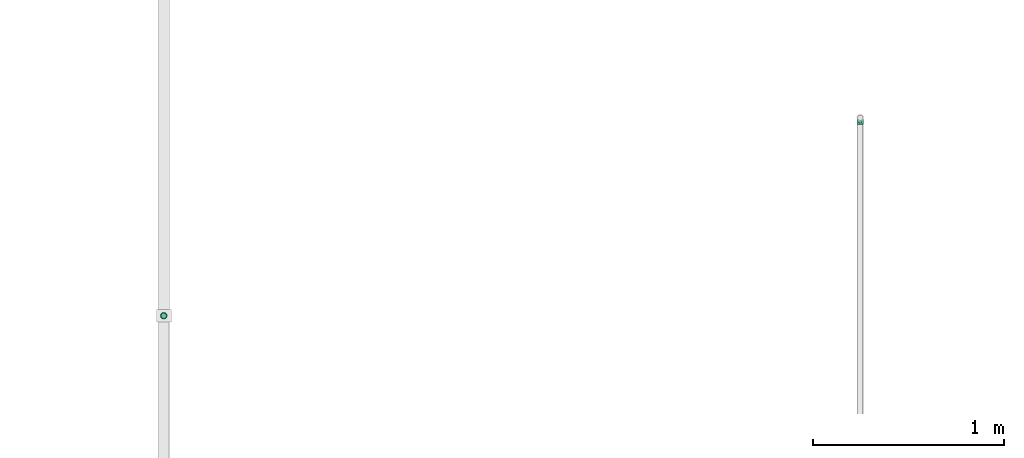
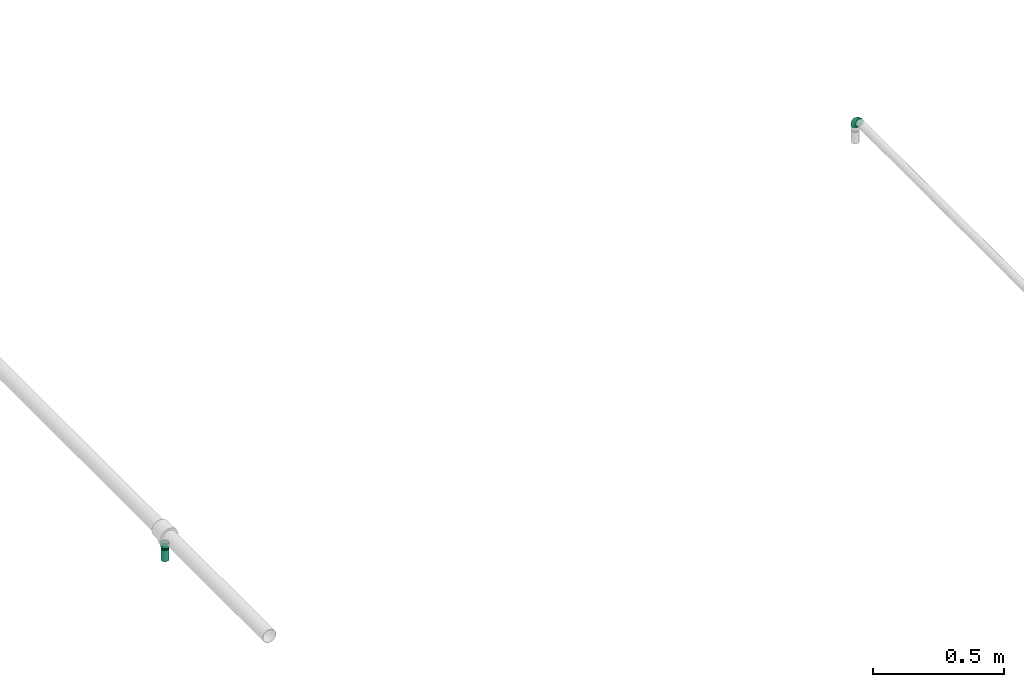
# One storey, part 4 of 17: 2 flow fittings, 1 flow segment, 1 flow terminal.
"""IFC2X3 building model written with IfcOpenShell, lengths in millimetres."""

from ifc_helpers import new_model, entity, si_unit, converted_unit, derived_unit, direction, frame, origin_with_axes, origin_2d_with_axis, place, context, subcontext, project, spatial, hollow_circle, extrude, open_shell, surface_model, source, transform, mapped, type_object, element, save


model = new_model("IFC2X3")

# Units and contexts
model_context = context("Model", 3, precision=0.01, world=frame((0.0, 4.29681676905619e-09, 0.0)), true_north=direction((4.01073788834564e-13, 1.0)))
plan_context = context("Plan", 3, precision=0.01, world=frame((0.0, 4.29681676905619e-09, 0.0)), true_north=direction((4.01073788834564e-13, 1.0)))
body_context = subcontext(model_context, "Body", "Model", "MODEL_VIEW")
ifc_project = project(units=[converted_unit("PLANEANGLEUNIT", "DEGREE", entity("IfcPositiveLengthMeasure", 0.0174532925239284), si_unit("PLANEANGLEUNIT", "RADIAN"), dimensions=[0, 0, 0, 0, 0, 0, 0]), si_unit("AREAUNIT", "SQUARE_METRE"), si_unit("LENGTHUNIT", "METRE", prefix="MILLI"), si_unit("MASSUNIT", "GRAM", prefix="KILO"), si_unit("POWERUNIT", "WATT"), si_unit("PRESSUREUNIT", "PASCAL"), si_unit("FORCEUNIT", "NEWTON", prefix="KILO"), si_unit("ELECTRICVOLTAGEUNIT", "VOLT"), si_unit("ELECTRICCURRENTUNIT", "AMPERE"), si_unit("THERMODYNAMICTEMPERATUREUNIT", "DEGREE_CELSIUS"), si_unit("TIMEUNIT", "SECOND"), si_unit("VOLUMEUNIT", "CUBIC_METRE"), derived_unit("LINEARVELOCITYUNIT", [(si_unit("LENGTHUNIT", "METRE"), 1), (si_unit("TIMEUNIT", "SECOND"), -1)]), derived_unit("VOLUMETRICFLOWRATEUNIT", [(si_unit("VOLUMEUNIT", "CUBIC_METRE"), 1), (si_unit("TIMEUNIT", "SECOND"), -1)]), derived_unit("THERMALTRANSMITTANCEUNIT", [(si_unit("POWERUNIT", "WATT"), 1), (si_unit("THERMODYNAMICTEMPERATUREUNIT", "KELVIN"), -1), (si_unit("AREAUNIT", "SQUARE_METRE"), -1)]), derived_unit("SOUNDPRESSUREUNIT", [(si_unit("PRESSUREUNIT", "PASCAL"), 1)])], contexts=[model_context, plan_context])

# Site, building, storey
site_placement = place(None, frame((0.0, -4.29681676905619e-09, 0.0), z_axis=(0.0, 0.0, 1.0), x_axis=(1.0, 0.0, 0.0)))
site = spatial("IfcSite", under=ifc_project, at=site_placement, Name="ENGM", CompositionType="ELEMENT")
building_placement = place(site_placement, frame((0.0, 4.29681676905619e-09, 0.0), z_axis=(0.0, 0.0, 1.0), x_axis=(1.0, 0.0, 0.0)))
building = spatial("IfcBuilding", under=site, at=building_placement, Name="TH", CompositionType="ELEMENT")
storey_placement = place(building_placement, frame((0.0, 0.0, 205200.0), z_axis=(0.0, 0.0, 1.0), x_axis=(1.0, 0.0, 0.0)))
storey = spatial("IfcBuildingStorey", under=building, at=storey_placement, Name="Nivå D + 1,2 m", CompositionType="ELEMENT", Elevation=205200.0)

# Flow fittings
pipe_fitting_type_1 = type_object("IfcPipeFittingType", Name="magi_pipe_fe_elbow_short_001", PredefinedType="BEND")
shared_shape_1 = source(origin_with_axes(), body_context, "Body", "SurfaceModel", [
    surface_model("IfcShellBasedSurfaceModel", [(-33.8, 8.45, -14.63583), (-33.8, 4.37404, -16.32415), (-33.8, 11.9501, -11.9501), (-33.8, -11.9501, -11.9501), (-33.8, -14.63583, -8.45), (-33.8, -8.45, -14.63583), (-33.8, 0.0, -16.9), (-33.8, -4.37404, -16.32415), (-33.8, -4.37404, 16.32415), (-33.8, 0.0, 16.9), (-33.8, -8.45, 14.63583), (-33.8, 16.32415, -4.37404), (-33.8, 14.63583, -8.45), (-33.8, -16.32415, -4.37404), (-33.8, -16.9, 0.0), (-33.8, -16.32415, 4.37404), (-33.8, 11.9501, 11.9501), (-33.8, 14.63583, 8.45), (-33.8, 16.32415, 4.37404), (-33.8, 4.37404, 16.32415), (-33.8, 8.45, 14.63583), (-33.8, -14.63583, 8.45), (-33.8, -11.9501, 11.9501), (-33.8, 16.9, 0.0), (-11.9501, 33.8, -11.9501), (0.0, 33.8, -16.9), (-4.37404, 33.8, -16.32415), (-8.45, 33.8, -14.63583), (-14.63583, 33.8, -8.45), (-16.32415, 33.8, -4.37404), (14.63583, 33.8, -8.45), (8.45, 33.8, 14.63583), (16.32415, 33.8, -4.37404), (8.45, 33.8, -14.63583), (11.9501, 33.8, -11.9501), (4.37404, 33.8, -16.32415), (16.32415, 33.8, 4.37404), (16.9, 33.8, 0.0), (-11.9501, 33.8, 11.9501), (-16.32415, 33.8, 4.37404), (-14.63583, 33.8, 8.45), (-8.45, 33.8, 14.63583), (-4.37404, 33.8, 16.32415), (11.9501, 33.8, 11.9501), (14.63583, 33.8, 8.45), (0.0, 33.8, 16.9), (4.37404, 33.8, 16.32415), (-16.9, 33.8, 0.0), (-24.79389, -13.12945, 9.48721), (-22.19287, -9.75018, 12.59315), (-24.09897, -14.97035, 0.0), (-14.93934, -10.76256, 8.5297), (-22.46095, -14.75051, 5.27077), (14.75051, 22.46094, 5.27077), (11.9251, 13.23888, 4.33236), (13.04069, 14.39795, 0.0), (7.71387, 13.68847, 11.55891), (9.75018, 22.19287, 12.59315), (4.10169, 13.0571, 14.04018), (-24.84007, -6.39063, 15.2048), (-25.81779, -2.23879, 16.61097), (-23.66549, 2.59054, 16.87119), (-26.50418, 14.06512, 11.08152), (-24.21253, 17.66365, 7.72657), (-29.58514, 15.86957, 7.00283), (-6.17382, -7.5455, 0.0), (-13.23888, -11.9251, 4.33236), (-14.39795, -13.04069, 0.0), (-17.81434, 18.87373, 11.97104), (-6.30846, 29.15138, 15.82987), (-2.31622, 25.28002, 16.85849), (-29.23923, 10.23435, 13.77053), (-1.45439, -2.85688, 7.61475), (-0.28326, 0.34872, 10.09509), (-5.74484, -4.04709, 10.4122), (-4.41137, 11.31918, 16.59407), (-8.39727, 3.10034, 15.7812), (-1.72649, 9.1306, 15.53089), (-17.39909, 24.75344, 7.64977), (-26.19233, 20.0512, 0.0), (-28.14518, 17.29657, 4.25857), (-26.05147, 6.6281, 15.96447), (-5.87354, 16.61944, 16.86968), (-12.51807, 12.51807, 16.48937), (-10.06312, 7.38516, 16.81295), (-3.01882, 3.01882, 13.81718), (-13.0571, -4.10169, 14.04018), (-16.82553, -0.15166, 16.38038), (10.76256, 14.93934, 8.5297), (13.12945, 24.79389, 9.48721), (6.39063, 24.84007, 15.2048), (2.23879, 25.81779, 16.61097), (-13.68847, -7.71387, 11.55891), (14.97035, 24.09897, 0.0), (-7.30894, 22.89991, 16.09489), (-10.67958, 26.17414, 14.008), (-12.78295, 18.26924, 15.06066), (-13.88562, 22.45231, 12.93244), (-18.04944, 15.16501, 14.04434), (-23.11658, 20.08178, 4.02986), (-21.84989, 21.84989, 0.0), (-18.55817, 25.48277, 3.93065), (-13.95142, 26.94732, 11.03289), (-18.57098, 7.23906, 16.59756), (-16.58335, 4.14122, 16.89279), (-17.96666, 11.46709, 15.63151), (-9.84453, 17.54304, 16.18938), (0.15166, 16.82553, 16.38038), (-23.27207, 11.47201, 14.23154), (3.84842, 5.86994, 10.70473), (-8.0212, -7.54413, 7.93275), (1.00345, -2.19508, 4.57414), (5.13203, 3.01004, 5.90201), (5.24161, 1.7543, 2.53265), (8.70457, 7.04947, 3.99182), (-20.0512, 26.19233, 0.0), (8.4852, 8.76699, 7.09296), (-4.55488, -6.72064, 4.90681), (2.05031, -2.05031, 0.0), (7.5455, 6.17382, 0.0), (-26.75399, 2.1369, -16.845), (-14.61995, 24.73803, -11.27736), (-28.45274, -13.45335, -9.81895), (-26.00469, 6.63555, -15.96645), (-23.06726, 20.04573, -4.26202), (-13.80647, -4.26506, -14.17873), (-14.67501, -0.21081, -16.07388), (-6.7902, -0.2828, -13.8478), (-24.53586, 11.08096, -14.13417), (-26.72048, 14.00837, -11.05776), (10.0967, 24.44989, -12.75976), (5.83237, 21.40218, -15.03047), (6.66249, 28.54238, -15.38093), (-20.38182, 15.48705, -12.74596), (12.53268, 21.23441, -9.15363), (12.54494, 15.67504, -5.54878), (9.7522, 12.89279, -8.66343), (-15.65186, 19.64213, -13.01327), (-12.03528, 20.66498, -14.67665), (-15.61907, 15.61906, -14.83879), (-25.56551, -15.26206, 0.0), (-24.65452, -15.12934, -5.50955), (13.45335, 28.45274, -9.81895), (15.12934, 24.65452, -5.50955), (-7.35442, -8.31014, -5.65563), (-15.67504, -12.54494, -5.54878), (-24.44989, -10.0967, -12.75976), (0.16522, 0.41303, -9.71728), (-5.70658, -5.33066, -8.89288), (-5.13869, -2.37198, -11.53565), (-21.23441, -12.53268, -9.15363), (0.71146, 7.93863, -14.09382), (0.21081, 14.67501, -16.07388), (3.49291, 14.42772, -14.76381), (-24.89911, -2.13088, -16.591), (-28.54238, -6.66249, -15.38093), (-18.44386, -7.71663, -13.26957), (2.13088, 24.89911, -16.591), (-28.64342, 17.44413, -2.89318), (1.70017, -1.28722, -5.09504), (-16.57067, 26.81947, -7.36596), (-17.69055, 27.4263, -3.76405), (-12.89279, -9.7522, -8.66343), (-5.96611, 5.96611, -15.95814), (-20.53709, 20.09345, -8.28985), (-2.1369, 26.75399, -16.845), (-6.89872, 24.58781, -16.02578), (-10.60739, 26.53157, -13.98044), (-21.40218, -5.83237, -15.03047), (2.93192, 5.89627, -11.55917), (6.89393, 12.61842, -11.82233), (5.58056, 5.95325, -8.79455), (-3.99512, 18.61798, -16.89635), (8.31014, 7.35442, -5.65563), (-9.1383, 9.86148, -16.89041), (-9.99983, 16.02119, -16.39699), (-16.68576, 9.78031, -16.34199), (-27.01915, 16.61158, -7.12979), (15.26206, 25.56551, 0.0), (-18.61798, 3.99512, -16.89635), (-19.37495, 27.82495, 0.0), (-12.61842, -6.89393, -11.82233), (-18.84705, 19.14018, -10.96545)], [open_shell([[[0, 1, 2]], [[3, 4, 5]], [[6, 7, 5]], [[8, 9, 10]], [[1, 6, 2]], [[11, 12, 2]], [[4, 2, 6]], [[2, 13, 10]], [[5, 4, 6]], [[2, 4, 13]], [[14, 15, 13]], [[11, 2, 16]], [[11, 17, 18]], [[11, 16, 17]], [[19, 20, 16]], [[16, 2, 10]], [[19, 16, 10]], [[21, 22, 15]], [[22, 13, 15]], [[22, 10, 13]], [[10, 9, 19]], [[11, 18, 23]], [[24, 25, 26]], [[24, 26, 27]], [[24, 28, 29]], [[25, 24, 30]], [[31, 32, 24]], [[33, 30, 34]], [[33, 35, 25]], [[25, 30, 33]], [[32, 30, 24]], [[32, 36, 37]], [[38, 24, 29]], [[39, 40, 29]], [[40, 38, 29]], [[38, 41, 42]], [[38, 31, 24]], [[31, 38, 42]], [[36, 43, 44]], [[36, 32, 43]], [[31, 45, 46]], [[32, 31, 43]], [[42, 45, 31]], [[39, 29, 47]], [[22, 48, 49]], [[15, 14, 50]], [[51, 48, 52]], [[53, 54, 55]], [[48, 22, 21]], [[15, 52, 21]], [[56, 57, 58]], [[49, 10, 22]], [[49, 59, 10]], [[9, 60, 61]], [[62, 63, 64]], [[65, 66, 67]], [[57, 43, 31]], [[62, 68, 63]], [[42, 69, 70]], [[20, 71, 16]], [[8, 60, 9]], [[72, 73, 74]], [[75, 76, 77]], [[16, 62, 17]], [[40, 39, 78]], [[79, 23, 80]], [[64, 18, 17]], [[9, 61, 19]], [[19, 81, 20]], [[82, 83, 84]], [[74, 85, 86]], [[59, 86, 87]], [[88, 89, 57]], [[90, 31, 46]], [[44, 53, 36]], [[46, 45, 91]], [[54, 53, 88]], [[44, 89, 53]], [[92, 86, 49]], [[89, 44, 43]], [[10, 59, 8]], [[53, 55, 93]], [[93, 36, 53]], [[66, 52, 67]], [[94, 82, 70]], [[95, 96, 94]], [[97, 98, 96]], [[79, 99, 100]], [[41, 38, 95]], [[101, 100, 99]], [[68, 78, 63]], [[42, 41, 69]], [[23, 18, 80]], [[95, 94, 69]], [[78, 101, 99]], [[38, 102, 95]], [[70, 45, 42]], [[97, 95, 102]], [[15, 50, 52]], [[90, 57, 31]], [[57, 90, 58]], [[81, 19, 61]], [[103, 104, 84]], [[105, 81, 103]], [[38, 40, 102]], [[106, 96, 83]], [[94, 106, 82]], [[91, 70, 107]], [[71, 62, 16]], [[62, 108, 98]], [[86, 59, 49]], [[67, 52, 50]], [[60, 59, 87]], [[92, 49, 51]], [[86, 85, 76]], [[91, 90, 46]], [[37, 36, 93]], [[107, 77, 58]], [[107, 58, 90]], [[58, 85, 109]], [[110, 74, 92]], [[72, 74, 110]], [[66, 51, 52]], [[72, 111, 112]], [[113, 114, 112]], [[56, 88, 57]], [[52, 48, 21]], [[49, 48, 51]], [[57, 89, 43]], [[53, 89, 88]], [[103, 81, 61]], [[71, 81, 108]], [[18, 64, 80]], [[63, 78, 99]], [[47, 115, 101]], [[101, 115, 100]], [[40, 78, 102]], [[68, 102, 78]], [[97, 96, 95]], [[105, 98, 108]], [[103, 84, 83]], [[107, 70, 82]], [[76, 84, 87]], [[82, 84, 75]], [[70, 91, 45]], [[90, 91, 107]], [[59, 60, 8]], [[61, 60, 87]], [[73, 85, 74]], [[109, 112, 116]], [[103, 61, 104]], [[105, 103, 83]], [[96, 105, 83]], [[81, 105, 108]], [[96, 98, 105]], [[62, 98, 68]], [[61, 87, 104]], [[87, 84, 104]], [[86, 76, 87]], [[77, 76, 85]], [[58, 77, 85]], [[75, 77, 107]], [[82, 75, 107]], [[76, 75, 84]], [[81, 71, 20]], [[62, 71, 108]], [[95, 69, 41]], [[70, 69, 94]], [[62, 64, 17]], [[80, 63, 99]], [[63, 80, 64]], [[80, 99, 79]], [[66, 65, 117]], [[110, 66, 117]], [[112, 114, 116]], [[118, 117, 65]], [[110, 92, 51]], [[112, 111, 113]], [[119, 55, 54]], [[74, 86, 92]], [[58, 109, 56]], [[116, 56, 109]], [[66, 110, 51]], [[72, 110, 117]], [[111, 72, 117]], [[73, 112, 109]], [[117, 118, 111]], [[113, 111, 118]], [[118, 119, 113]], [[114, 119, 54]], [[119, 114, 113]], [[116, 54, 88]], [[54, 116, 114]], [[116, 88, 56]], [[112, 73, 72]], [[85, 73, 109]], [[78, 39, 101]], [[47, 101, 39]], [[102, 68, 97]], [[97, 68, 98]], [[82, 106, 83]], [[94, 96, 106]], [[1, 120, 6]], [[28, 24, 121]], [[3, 122, 4]], [[0, 123, 1]], [[100, 124, 79]], [[125, 126, 127]], [[128, 2, 129]], [[130, 131, 132]], [[128, 129, 133]], [[134, 135, 136]], [[137, 138, 139]], [[128, 0, 2]], [[67, 140, 141]], [[134, 142, 143]], [[141, 13, 4]], [[144, 65, 145]], [[146, 3, 5]], [[147, 148, 149]], [[145, 141, 150]], [[151, 152, 153]], [[154, 7, 6]], [[5, 155, 146]], [[150, 146, 156]], [[155, 5, 7]], [[143, 135, 134]], [[35, 157, 25]], [[23, 79, 158]], [[148, 159, 144]], [[160, 161, 29]], [[145, 162, 144]], [[163, 152, 151]], [[29, 28, 160]], [[121, 164, 160]], [[33, 34, 130]], [[25, 165, 26]], [[26, 165, 166]], [[142, 34, 30]], [[24, 27, 167]], [[124, 161, 164]], [[157, 35, 132]], [[155, 154, 168]], [[123, 0, 128]], [[169, 170, 171]], [[172, 157, 152]], [[26, 166, 27]], [[132, 35, 33]], [[142, 130, 34]], [[168, 154, 126]], [[136, 135, 173]], [[133, 137, 139]], [[2, 12, 129]], [[170, 131, 130]], [[30, 32, 143]], [[172, 174, 175]], [[176, 123, 128]], [[158, 177, 11]], [[135, 55, 119]], [[167, 27, 166]], [[175, 166, 172]], [[137, 167, 138]], [[122, 141, 4]], [[140, 14, 13]], [[32, 37, 178]], [[170, 130, 134]], [[152, 157, 131]], [[165, 157, 172]], [[153, 170, 151]], [[152, 163, 174]], [[168, 125, 156]], [[122, 146, 150]], [[120, 154, 6]], [[179, 174, 126]], [[179, 126, 154]], [[126, 163, 127]], [[162, 145, 150]], [[140, 13, 141]], [[32, 178, 143]], [[55, 143, 178]], [[177, 129, 12]], [[128, 133, 139]], [[176, 128, 139]], [[120, 123, 179]], [[121, 160, 28]], [[161, 100, 180]], [[166, 175, 138]], [[121, 24, 167]], [[161, 47, 29]], [[79, 124, 158]], [[124, 164, 177]], [[161, 124, 100]], [[136, 171, 170]], [[127, 163, 151]], [[147, 171, 159]], [[148, 144, 162]], [[127, 151, 169]], [[127, 181, 125]], [[129, 177, 164]], [[12, 11, 177]], [[159, 65, 144]], [[67, 141, 145]], [[143, 55, 135]], [[135, 119, 173]], [[123, 120, 1]], [[154, 120, 179]], [[157, 165, 25]], [[166, 165, 172]], [[172, 152, 174]], [[176, 139, 175]], [[126, 174, 163]], [[176, 174, 179]], [[174, 176, 175]], [[123, 176, 179]], [[150, 181, 162]], [[127, 149, 181]], [[181, 148, 162]], [[159, 148, 147]], [[171, 136, 173]], [[170, 134, 136]], [[159, 171, 173]], [[171, 147, 169]], [[169, 147, 149]], [[151, 170, 169]], [[164, 182, 129]], [[182, 121, 137]], [[181, 149, 148]], [[169, 149, 127]], [[182, 137, 133]], [[167, 137, 121]], [[166, 138, 167]], [[175, 139, 138]], [[129, 182, 133]], [[121, 182, 164]], [[161, 160, 164]], [[47, 161, 180]], [[177, 158, 124]], [[23, 158, 11]], [[130, 132, 33]], [[157, 132, 131]], [[143, 142, 30]], [[130, 142, 134]], [[154, 155, 7]], [[146, 155, 168]], [[146, 122, 3]], [[141, 122, 150]], [[152, 131, 153]], [[159, 119, 118]], [[67, 145, 65]], [[170, 153, 131]], [[119, 159, 173]], [[159, 118, 65]], [[156, 125, 181]], [[126, 125, 168]], [[150, 156, 181]], [[168, 156, 146]]])]),
])
flow_fitting_1_placement = place(storey_placement, frame((899432.08103, 477870.89813, 4446.54603), z_axis=(-1.0, 0.0, 0.0), x_axis=(0.0, 1.0, 0.0)))
element("IfcFlowFitting", 1, at=flow_fitting_1_placement, inside=storey, type_object=pipe_fitting_type_1, Name="magi_pipe_fe_elbow_short_001", context=body_context, shape_type="MappedRepresentation", body=[
    mapped(shared_shape_1, transform((0.0, 0.0, 0.0), scale=1.0)),
])
pipe_fitting_type_2 = type_object("IfcPipeFittingType", Name="magi_pipe_fe_reducer_centric_short_NOR", PredefinedType="TRANSITION")
shared_shape_2 = source(origin_with_axes(), body_context, "Body", "SurfaceModel", [
    surface_model("IfcShellBasedSurfaceModel", [(14.4, 4.37404, -16.32415), (14.4, 8.45, -14.63583), (14.4, 11.9501, -11.9501), (14.4, -8.45, -14.63583), (14.4, 16.32415, -4.37404), (14.4, 16.32415, 4.37404), (14.4, 14.63583, -8.45), (14.4, 0.0, -16.9), (14.4, -4.37404, -16.32415), (14.4, -11.9501, -11.9501), (14.4, -16.32415, -4.37404), (14.4, -14.63583, -8.45), (14.4, -16.32415, 4.37404), (14.4, 16.9, 0.0), (14.4, 14.63583, 8.45), (14.4, 11.9501, 11.9501), (14.4, 4.37404, 16.32415), (14.4, 8.45, 14.63583), (14.4, 0.0, 16.9), (14.4, -14.63583, 8.45), (14.4, -16.9, 0.0), (14.4, -8.45, 14.63583), (14.4, -11.9501, 11.9501), (14.4, -4.37404, 16.32415), (12.4, 4.37404, 16.32415), (12.4, -14.63583, 8.45), (12.4, 0.0, 16.9), (12.4, 16.32415, 4.37404), (12.4, 8.45, 14.63583), (12.4, 11.9501, 11.9501), (12.4, 14.63583, 8.45), (12.4, -8.45, 14.63583), (12.4, -11.9501, 11.9501), (12.4, -4.37404, 16.32415), (12.4, -16.32415, 4.37404), (12.4, -16.32415, -4.37404), (12.4, -16.9, 0.0), (12.4, -8.45, -14.63583), (12.4, 16.32415, -4.37404), (12.4, 11.9501, -11.9501), (12.4, 14.63583, -8.45), (12.4, 8.45, -14.63583), (12.4, 4.37404, -16.32415), (12.4, 0.0, -16.9), (12.4, -11.9501, -11.9501), (12.4, -14.63583, -8.45), (12.4, -4.37404, -16.32415), (12.4, 16.9, 0.0), (-2.0, 10.33541, 2.76936), (-2.0, 0.0, 10.7), (-2.0, 2.76936, 10.33541), (-2.0, 7.56604, 7.56604), (-2.0, 5.35, 9.26647), (-2.0, 9.26647, 5.35), (-2.0, -9.26647, 5.35), (-2.0, -2.76936, 10.33541), (-2.0, -7.56604, 7.56604), (-2.0, -5.35, 9.26647), (-2.0, -10.33541, 2.76936), (-2.0, -10.33541, -2.76936), (-2.0, -10.7, 0.0), (-2.0, 10.33541, -2.76936), (-2.0, 7.56604, -7.56604), (-2.0, 9.26647, -5.35), (-2.0, 5.35, -9.26647), (-2.0, -5.35, -9.26647), (-2.0, 2.76936, -10.33541), (-2.0, -7.56604, -7.56604), (-2.0, -9.26647, -5.35), (-2.0, 0.0, -10.7), (-2.0, -2.76936, -10.33541), (-2.0, 10.7, 0.0), (0.0, 5.35, -9.26647), (0.0, 0.0, -10.7), (0.0, 2.76936, -10.33541), (0.0, 10.33541, -2.76936), (0.0, 7.56604, -7.56604), (0.0, -5.35, -9.26647), (0.0, 9.26647, -5.35), (0.0, -9.26647, 5.35), (0.0, -2.76936, -10.33541), (0.0, -7.56604, -7.56604), (0.0, -10.33541, -2.76936), (0.0, -9.26647, -5.35), (0.0, 10.33541, 2.76936), (0.0, 10.7, 0.0), (0.0, 9.26647, 5.35), (0.0, 7.56604, 7.56604), (0.0, 2.76936, 10.33541), (0.0, 0.0, 10.7), (0.0, 5.35, 9.26647), (0.0, -10.33541, 2.76936), (0.0, -10.7, 0.0), (0.0, -7.56604, 7.56604), (0.0, -2.76936, 10.33541), (0.0, -5.35, 9.26647), (0.0, -9.3625, -2.31662), (12.4, -14.42505, -5.97505), (12.4, -15.66253, -2.98753), (0.0, 6.6875, -6.94985), (12.4, 8.96258, -13.18758), (0.0, -6.6875, -6.94985), (12.4, -8.96258, -13.18758), (0.0, 9.3625, -2.31662), (12.4, 15.66253, -2.98753), (12.4, 14.42505, -5.97505), (12.4, -5.97505, -14.42505), (12.4, 5.97505, -14.42505), (0.0, 2.675, -9.26647), (12.4, 13.18758, -8.96258), (0.0, -2.675, -9.26647), (12.4, -13.18758, -8.96258), (0.0, -8.025, -4.63324), (12.4, 2.98753, -15.66253), (0.0, 0.0, -9.26647), (12.4, -2.98753, -15.66253), (0.0, 8.025, -4.63324), (0.0, 9.3625, 2.31662), (12.4, 14.42505, 5.97505), (12.4, 15.66253, 2.98753), (0.0, -6.6875, 6.94985), (12.4, -8.96258, 13.18758), (0.0, 6.6875, 6.94985), (12.4, 8.96258, 13.18758), (0.0, -9.3625, 2.31662), (12.4, -15.66253, 2.98753), (12.4, -14.42505, 5.97505), (12.4, 5.97505, 14.42505), (12.4, -5.97505, 14.42505), (0.0, -2.675, 9.26647), (12.4, -13.18758, 8.96258), (0.0, 2.675, 9.26647), (12.4, 13.18758, 8.96258), (0.0, 8.025, 4.63324), (12.4, -2.98753, 15.66253), (0.0, 0.0, 9.26647), (12.4, 2.98753, 15.66253), (0.0, -8.025, 4.63324)], [open_shell([[[0, 1, 2]], [[3, 0, 2]], [[2, 4, 5]], [[4, 2, 6]], [[2, 5, 3]], [[7, 3, 8]], [[7, 0, 3]], [[9, 10, 11]], [[10, 9, 3]], [[3, 12, 10]], [[5, 4, 13]], [[5, 14, 15]], [[5, 15, 16]], [[16, 12, 3]], [[16, 15, 17]], [[12, 16, 18]], [[18, 19, 12]], [[20, 10, 12]], [[19, 21, 22]], [[19, 18, 21]], [[21, 18, 23]], [[3, 5, 16]], [[24, 25, 26]], [[27, 24, 28]], [[29, 30, 27]], [[29, 27, 28]], [[25, 24, 27]], [[31, 25, 32]], [[31, 33, 26]], [[26, 25, 31]], [[34, 25, 27]], [[34, 35, 36]], [[34, 27, 37]], [[27, 38, 39]], [[39, 38, 40]], [[39, 41, 42]], [[37, 27, 39]], [[42, 43, 39]], [[35, 44, 45]], [[44, 35, 37]], [[37, 43, 46]], [[35, 34, 37]], [[39, 43, 37]], [[38, 27, 47]], [[35, 10, 36]], [[45, 11, 35]], [[3, 44, 37]], [[45, 44, 9]], [[8, 37, 46]], [[35, 11, 10]], [[10, 20, 36]], [[8, 3, 37]], [[9, 44, 3]], [[9, 11, 45]], [[7, 8, 46]], [[46, 43, 7]], [[42, 0, 43]], [[41, 1, 42]], [[6, 39, 40]], [[41, 39, 2]], [[4, 40, 38]], [[41, 2, 1]], [[1, 0, 42]], [[13, 4, 38]], [[6, 40, 4]], [[6, 2, 39]], [[47, 13, 38]], [[43, 0, 7]], [[27, 5, 47]], [[30, 14, 27]], [[17, 29, 28]], [[30, 29, 15]], [[16, 28, 24]], [[27, 14, 5]], [[5, 13, 47]], [[16, 17, 28]], [[15, 29, 17]], [[15, 14, 30]], [[18, 16, 24]], [[24, 26, 18]], [[33, 23, 26]], [[31, 21, 33]], [[19, 32, 25]], [[31, 32, 22]], [[12, 25, 34]], [[31, 22, 21]], [[21, 23, 33]], [[20, 12, 34]], [[19, 25, 12]], [[19, 22, 32]], [[36, 20, 34]], [[26, 23, 18]], [[48, 49, 50]], [[51, 50, 52]], [[51, 53, 48]], [[51, 48, 50]], [[49, 48, 54]], [[55, 56, 57]], [[56, 55, 54]], [[58, 59, 60]], [[54, 55, 49]], [[58, 54, 59]], [[54, 48, 61]], [[59, 54, 61]], [[62, 61, 63]], [[59, 62, 64]], [[61, 62, 59]], [[65, 64, 66]], [[59, 67, 68]], [[67, 59, 65]], [[65, 69, 70]], [[65, 59, 64]], [[66, 69, 65]], [[61, 48, 71]], [[72, 73, 74]], [[75, 72, 76]], [[77, 72, 75]], [[75, 76, 78]], [[79, 77, 75]], [[73, 77, 80]], [[73, 72, 77]], [[81, 82, 83]], [[82, 81, 77]], [[77, 79, 82]], [[84, 75, 85]], [[84, 86, 87]], [[75, 87, 79]], [[88, 89, 87]], [[88, 87, 90]], [[79, 87, 89]], [[82, 91, 92]], [[79, 91, 82]], [[93, 94, 95]], [[94, 93, 79]], [[89, 94, 79]], [[75, 84, 87]], [[59, 82, 60]], [[68, 83, 59]], [[77, 67, 65]], [[68, 67, 81]], [[80, 65, 70]], [[59, 83, 82]], [[82, 92, 60]], [[80, 77, 65]], [[81, 67, 77]], [[81, 83, 68]], [[73, 80, 70]], [[70, 69, 73]], [[66, 74, 69]], [[64, 72, 66]], [[78, 62, 63]], [[64, 62, 76]], [[75, 63, 61]], [[64, 76, 72]], [[72, 74, 66]], [[85, 75, 61]], [[78, 63, 75]], [[78, 76, 62]], [[71, 85, 61]], [[69, 74, 73]], [[48, 84, 71]], [[53, 86, 48]], [[90, 51, 52]], [[53, 51, 87]], [[88, 52, 50]], [[48, 86, 84]], [[84, 85, 71]], [[88, 90, 52]], [[87, 51, 90]], [[87, 86, 53]], [[89, 88, 50]], [[50, 49, 89]], [[55, 94, 49]], [[57, 95, 55]], [[79, 56, 54]], [[57, 56, 93]], [[91, 54, 58]], [[57, 93, 95]], [[95, 94, 55]], [[92, 91, 58]], [[79, 54, 91]], [[79, 93, 56]], [[60, 92, 58]], [[49, 94, 89]], [[29, 26, 39]], [[39, 47, 29]], [[36, 26, 32]], [[36, 44, 43]], [[43, 39, 36]], [[36, 39, 26]], [[92, 95, 77]], [[85, 95, 90]], [[85, 72, 77]], [[85, 77, 95]], [[96, 97, 98]], [[92, 96, 98]], [[99, 100, 72]], [[98, 36, 92]], [[44, 101, 102]], [[101, 77, 102]], [[103, 104, 105]], [[85, 47, 104]], [[77, 106, 102]], [[107, 108, 72]], [[109, 39, 99]], [[106, 77, 110]], [[101, 111, 112]], [[113, 114, 108]], [[100, 99, 39]], [[110, 115, 106]], [[99, 116, 109]], [[100, 107, 72]], [[96, 112, 97]], [[105, 116, 103]], [[85, 104, 103]], [[108, 107, 113]], [[113, 43, 114]], [[116, 105, 109]], [[114, 115, 110]], [[43, 115, 114]], [[111, 101, 44]], [[111, 97, 112]], [[117, 118, 119]], [[85, 117, 119]], [[120, 121, 95]], [[119, 47, 85]], [[29, 122, 123]], [[122, 90, 123]], [[124, 125, 126]], [[92, 36, 125]], [[90, 127, 123]], [[128, 129, 95]], [[130, 32, 120]], [[127, 90, 131]], [[122, 132, 133]], [[134, 135, 129]], [[121, 120, 32]], [[131, 136, 127]], [[120, 137, 130]], [[121, 128, 95]], [[117, 133, 118]], [[126, 137, 124]], [[92, 125, 124]], [[129, 128, 134]], [[134, 26, 135]], [[137, 126, 130]], [[135, 136, 131]], [[26, 136, 135]], [[132, 122, 29]], [[132, 118, 133]]])]),
])
flow_fitting_2_placement = place(storey_placement, frame((895782.28738, 476833.50742, 4341.23232000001), z_axis=(0.0, 1.0, 0.0), x_axis=(0.0, 0.0, 1.0)))
element("IfcFlowFitting", 2, at=flow_fitting_2_placement, inside=storey, type_object=pipe_fitting_type_2, Name="magi_pipe_fe_reducer_centric_short_NOR", context=body_context, shape_type="MappedRepresentation", body=[
    mapped(shared_shape_2, transform((0.0, 0.0, 0.0), scale=1.0)),
])

# Flow segment
pipe_segment_type = type_object("IfcPipeSegmentType", Name="Stålrør normaltykke", PredefinedType="RIGIDSEGMENT")
shared_shape_3 = source(origin_with_axes(), body_context, "Body", "SweptSolid", [
    extrude(hollow_circle(Radius=16.9, WallThickness=2.0, at=origin_2d_with_axis()), frame((0.0, 0.0, 0.0), z_axis=(1.0, 0.0, 0.0), x_axis=(0.0, 1.0, 0.0)), (0.0, 0.0, 1.0), 18.8),
])
flow_segment_placement = place(storey_placement, frame((895782.28738, 476833.50742, 4353.63232), z_axis=(0.0, 1.0, 0.0), x_axis=(0.0, 0.0, 1.0)))
element("IfcFlowSegment", 3, at=flow_segment_placement, inside=storey, type_object=pipe_segment_type, Name="Stålrør normaltykke", context=body_context, shape_type="MappedRepresentation", body=[
    mapped(shared_shape_3, transform((0.0, 0.0, 0.0), scale=1.0)),
])

# Flow terminal
fire_suppression_terminal_type = type_object("IfcFireSuppressionTerminalType", Name="SP-15-K80-68DGR-STD-NEDOVER", PredefinedType="NOTDEFINED")
shared_shape_4 = source(origin_with_axes(), body_context, "Body", "SurfaceModel", [
    surface_model("IfcShellBasedSurfaceModel", [(4.1411, -15.45481, 53.0), (8.0, -13.85641, 53.0), (11.31371, -11.31371, 53.0), (-8.0, -13.85641, 53.0), (15.45481, -4.1411, 53.0), (16.0, 0.0, 53.0), (13.85641, -8.0, 53.0), (0.0, -16.0, 53.0), (-4.1411, -15.45481, 53.0), (-13.85641, -8.0, 53.0), (-11.31371, -11.31371, 53.0), (-15.45481, -4.1411, 53.0), (15.45481, 4.1411, 53.0), (13.85641, 8.0, 53.0), (11.31371, 11.31371, 53.0), (-4.1411, 15.45481, 53.0), (8.0, 13.85641, 53.0), (4.1411, 15.45481, 53.0), (0.0, 16.0, 53.0), (-13.85641, 8.0, 53.0), (-15.45481, 4.1411, 53.0), (-16.0, 0.0, 53.0), (-11.31371, 11.31371, 53.0), (-8.0, 13.85641, 53.0), (0.0, 16.0, 0.0), (4.1411, 15.45481, 0.0), (8.0, 13.85641, 0.0), (-4.1411, 15.45481, 0.0), (11.31371, 11.31371, 0.0), (13.85641, 8.0, 0.0), (15.45481, 4.1411, 0.0), (-15.45481, -4.1411, 0.0), (-11.31371, 11.31371, 0.0), (-8.0, 13.85641, 0.0), (-13.85641, 8.0, 0.0), (-15.45481, 4.1411, 0.0), (-16.0, 0.0, 0.0), (4.1411, -15.45481, 0.0), (16.0, 0.0, 0.0), (15.45481, -4.1411, 0.0), (13.85641, -8.0, 0.0), (11.31371, -11.31371, 0.0), (8.0, -13.85641, 0.0), (-8.0, -13.85641, 0.0), (-13.85641, -8.0, 0.0), (-11.31371, -11.31371, 0.0), (0.0, -16.0, 0.0), (-4.1411, -15.45481, 0.0)], [open_shell([[[0, 1, 2]], [[3, 0, 2]], [[4, 5, 2]], [[4, 2, 6]], [[3, 2, 5]], [[7, 3, 8]], [[7, 0, 3]], [[3, 9, 10]], [[9, 3, 11]], [[5, 11, 3]], [[5, 12, 11]], [[12, 13, 14]], [[15, 12, 14]], [[16, 17, 18]], [[14, 16, 15]], [[18, 15, 16]], [[11, 19, 20]], [[21, 11, 20]], [[22, 15, 23]], [[15, 22, 19]], [[19, 11, 15]], [[11, 12, 15]], [[24, 25, 26]], [[27, 24, 26]], [[28, 29, 30]], [[27, 26, 28]], [[27, 28, 31]], [[27, 32, 33]], [[32, 27, 34]], [[34, 31, 35]], [[31, 34, 27]], [[35, 31, 36]], [[28, 30, 31]], [[37, 38, 39]], [[37, 39, 40]], [[41, 42, 37]], [[41, 37, 40]], [[38, 37, 43]], [[44, 43, 45]], [[43, 44, 31]], [[43, 46, 47]], [[43, 31, 38]], [[37, 46, 43]], [[38, 31, 30]], [[11, 31, 44]], [[45, 9, 44]], [[3, 43, 47]], [[45, 43, 10]], [[8, 47, 46]], [[31, 21, 36]], [[31, 11, 21]], [[44, 9, 11]], [[45, 10, 9]], [[3, 10, 43]], [[47, 8, 3]], [[46, 7, 8]], [[0, 37, 42]], [[41, 1, 42]], [[6, 40, 39]], [[41, 40, 2]], [[4, 39, 38]], [[37, 0, 7]], [[42, 1, 0]], [[41, 2, 1]], [[40, 6, 2]], [[4, 6, 39]], [[38, 5, 4]], [[37, 7, 46]], [[12, 38, 30]], [[13, 30, 29]], [[16, 26, 25]], [[17, 25, 24]], [[30, 13, 12]], [[12, 5, 38]], [[28, 14, 13]], [[28, 26, 14]], [[14, 26, 16]], [[25, 17, 16]], [[28, 13, 29]], [[24, 18, 17]], [[15, 27, 33]], [[32, 23, 33]], [[19, 34, 35]], [[32, 34, 22]], [[20, 35, 36]], [[27, 15, 18]], [[33, 23, 15]], [[32, 22, 23]], [[34, 19, 22]], [[20, 19, 35]], [[36, 21, 20]], [[27, 18, 24]]])]),
])
flow_terminal_placement = place(storey_placement, frame((895782.28738, 476833.50742, 4344.28031999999), z_axis=(0.0, 0.0, -1.0), x_axis=(1.0, 0.0, 0.0)))
element("IfcFlowTerminal", 4, at=flow_terminal_placement, inside=storey, type_object=fire_suppression_terminal_type, Name="SP-15-K80-68DGR-STD-NEDOVER", context=body_context, shape_type="MappedRepresentation", body=[
    mapped(shared_shape_4, transform((0.0, 0.0, 0.0), scale=1.0)),
])

save(model, "model.ifc")
